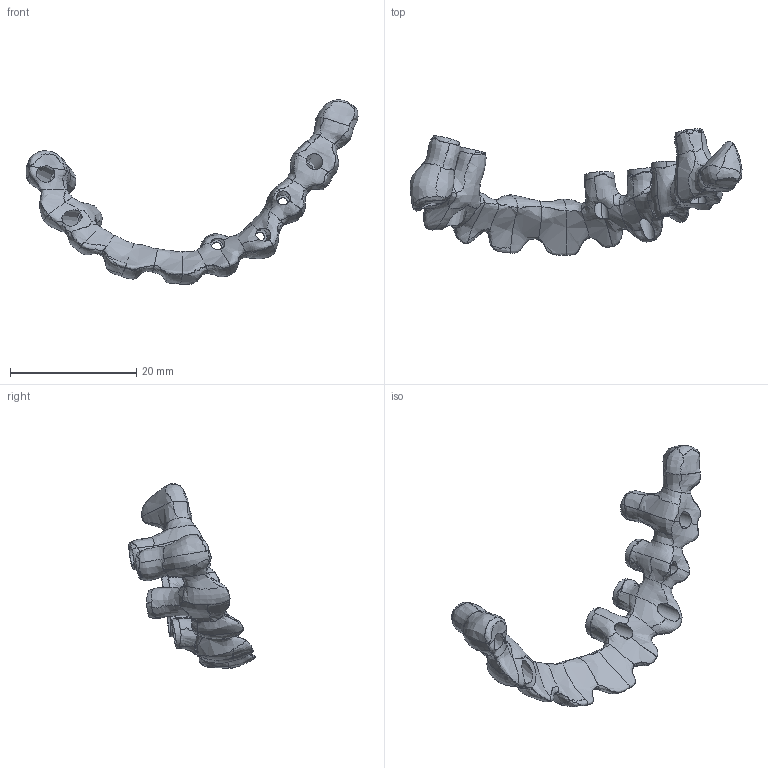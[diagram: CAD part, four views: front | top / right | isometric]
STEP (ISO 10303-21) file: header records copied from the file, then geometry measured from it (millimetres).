
FILE_DESCRIPTION(('OneSpaceDesigner STEP Export'),'2;1');
FILE_NAME('beugel6.stp','2005-03-21T16:18:32',(''),(''),'OneSpace Designer STEP processor (Jan. 2003) for AP214(CD)(Solid Model)','OneSpace Designer 12.01C 26-Mar-2004 (C) CoCreate Software GmbH','');
FILE_SCHEMA(('AUTOMOTIVE_DESIGN_CC2 {1 2 10303 214 -1 1 5 1}'));
Products named in the file (1): p1
Bounding box: 52.64 x 20.04 x 29.27 mm (x, y, z)
Surface area: 2341.5 mm2 (no closed solid volume)
Topology: 0 solids, 1 shells, 195 faces, 2860 edges, 2129 vertices
Faces by surface type: bspline 118, cylinder 32, plane 20, sphere 12, revolution 8, extrusion 3, cone 2
Entity records: 133076 total; most frequent: CARTESIAN_POINT 117035, ORIENTED_EDGE 4366, EDGE_CURVE 2768, VERTEX_POINT 2129, DIRECTION 1826, VECTOR 1562, LINE 1559, B_SPLINE_CURVE_WITH_KNOTS 798
